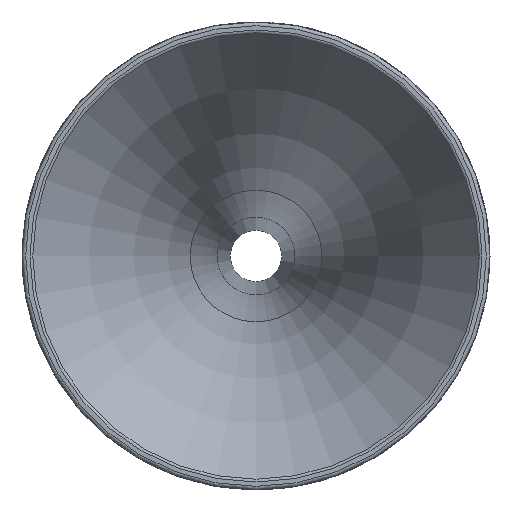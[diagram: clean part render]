
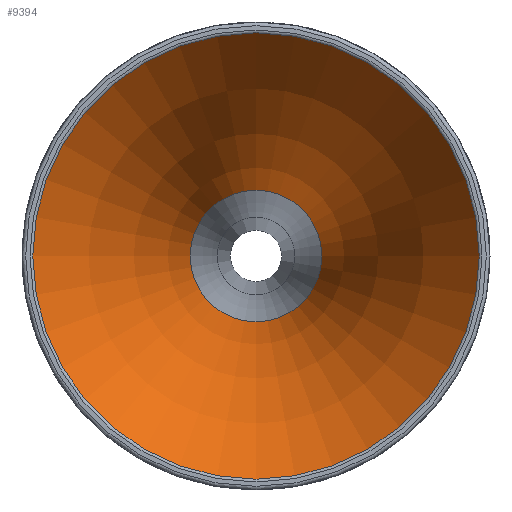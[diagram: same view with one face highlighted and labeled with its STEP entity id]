
A CAD part, front view. The second image highlights one B-rep face of the part: STEP entity #9394.
In plain terms, the highlighted toroidal (fillet/blend) face has major radius 325.543 mm and minor radius 301.625 mm.
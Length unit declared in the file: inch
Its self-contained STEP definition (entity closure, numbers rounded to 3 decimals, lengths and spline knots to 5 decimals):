
#110=TOROIDAL_SURFACE('',#10022,12.81666,11.875);
#2102=FACE_OUTER_BOUND('',#2667,.T.);
#2667=EDGE_LOOP('',(#8576,#8577,#8578,#8579));
#2873=CIRCLE('',#9871,3.81534);
#2956=CIRCLE('',#10020,1.125);
#2958=CIRCLE('',#10023,11.875);
#4304=VERTEX_POINT('',#21295);
#4399=VERTEX_POINT('',#22854);
#5611=EDGE_CURVE('',#4304,#4304,#2873,.T.);
#5797=EDGE_CURVE('',#4399,#4399,#2956,.T.);
#5799=EDGE_CURVE('',#4304,#4399,#2958,.T.);
#8576=ORIENTED_EDGE('',*,*,#5611,.F.);
#8577=ORIENTED_EDGE('',*,*,#5799,.T.);
#8578=ORIENTED_EDGE('',*,*,#5797,.T.);
#8579=ORIENTED_EDGE('',*,*,#5799,.F.);
#9394=ADVANCED_FACE('',(#2102),#110,.T.);
#9871=AXIS2_PLACEMENT_3D('',#21297,#11428,#11429);
#10020=AXIS2_PLACEMENT_3D('',#22855,#11782,#11783);
#10022=AXIS2_PLACEMENT_3D('',#22857,#11786,#11787);
#10023=AXIS2_PLACEMENT_3D('',#22858,#11788,#11789);
#11428=DIRECTION('center_axis',(0.,1.,0.));
#11429=DIRECTION('ref_axis',(0.,0.,-1.));
#11782=DIRECTION('center_axis',(0.,1.,0.));
#11783=DIRECTION('ref_axis',(1.,0.,0.));
#11786=DIRECTION('center_axis',(0.,1.,0.));
#11787=DIRECTION('ref_axis',(0.,0.,1.));
#11788=DIRECTION('center_axis',(-1.,0.,0.));
#11789=DIRECTION('ref_axis',(0.,0.,-1.));
#21295=CARTESIAN_POINT('',(0.,-15.07202,-3.81534));
#21297=CARTESIAN_POINT('Origin',(0.,-15.07202,0.));
#22854=CARTESIAN_POINT('',(0.,-9.40519,-1.125));
#22855=CARTESIAN_POINT('Origin',(0.,-9.40519,0.));
#22857=CARTESIAN_POINT('Origin',(0.,-7.32658,0.));
#22858=CARTESIAN_POINT('Origin',(0.,-7.32658,
-12.81666));
